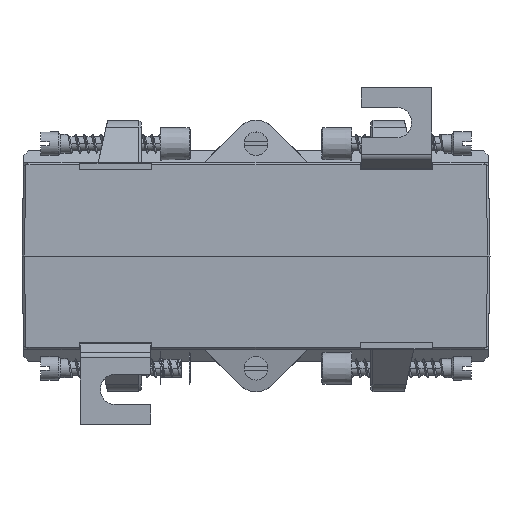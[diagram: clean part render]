
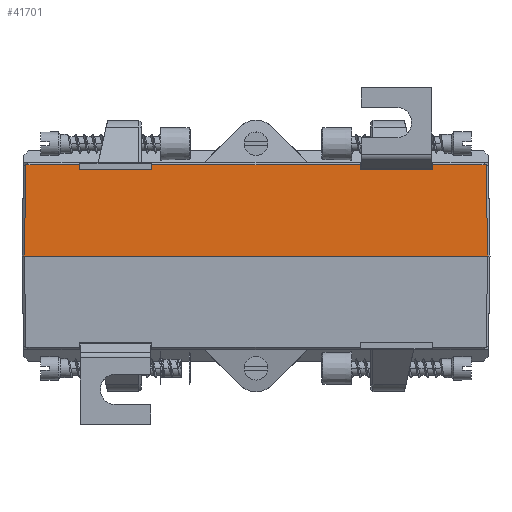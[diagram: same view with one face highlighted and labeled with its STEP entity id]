
A CAD part, front view. The second image highlights one B-rep face of the part: STEP entity #41701.
In plain terms, the highlighted planar face has unit normal (0, -1, 0.018).
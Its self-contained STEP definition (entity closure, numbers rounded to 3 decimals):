
#799=PLANE('',#44269);
#3035=FACE_OUTER_BOUND('',#5278,.T.);
#5278=EDGE_LOOP('',(#30812,#30813,#30814,#30815,#30816,#30817,#30818,#30819,
#30820,#30821,#30822,#30823,#30824,#30825));
#9859=LINE('',#88859,#13892);
#9861=LINE('',#88864,#13894);
#9862=LINE('',#88866,#13895);
#9863=LINE('',#88868,#13896);
#9864=LINE('',#88869,#13897);
#9865=LINE('',#88871,#13898);
#9866=LINE('',#88873,#13899);
#9867=LINE('',#88875,#13900);
#9868=LINE('',#88877,#13901);
#9869=LINE('',#88879,#13902);
#9870=LINE('',#88881,#13903);
#9871=LINE('',#88883,#13904);
#9872=LINE('',#88885,#13905);
#9873=LINE('',#88886,#13906);
#13892=VECTOR('',#49468,1000.);
#13894=VECTOR('',#49472,1000.);
#13895=VECTOR('',#49473,1000.);
#13896=VECTOR('',#49474,1000.);
#13897=VECTOR('',#49475,1000.);
#13898=VECTOR('',#49476,1000.);
#13899=VECTOR('',#49477,1000.);
#13900=VECTOR('',#49478,1000.);
#13901=VECTOR('',#49479,1000.);
#13902=VECTOR('',#49480,1000.);
#13903=VECTOR('',#49481,1000.);
#13904=VECTOR('',#49482,1000.);
#13905=VECTOR('',#49483,1000.);
#13906=VECTOR('',#49484,1000.);
#18457=VERTEX_POINT('',#88856);
#18458=VERTEX_POINT('',#88858);
#18459=VERTEX_POINT('',#88862);
#18460=VERTEX_POINT('',#88863);
#18461=VERTEX_POINT('',#88865);
#18462=VERTEX_POINT('',#88867);
#18463=VERTEX_POINT('',#88870);
#18464=VERTEX_POINT('',#88872);
#18465=VERTEX_POINT('',#88874);
#18466=VERTEX_POINT('',#88876);
#18467=VERTEX_POINT('',#88878);
#18468=VERTEX_POINT('',#88880);
#18469=VERTEX_POINT('',#88882);
#18470=VERTEX_POINT('',#88884);
#23111=EDGE_CURVE('',#18458,#18457,#9859,.T.);
#23113=EDGE_CURVE('',#18459,#18460,#9861,.T.);
#23114=EDGE_CURVE('',#18460,#18461,#9862,.T.);
#23115=EDGE_CURVE('',#18461,#18462,#9863,.T.);
#23116=EDGE_CURVE('',#18458,#18462,#9864,.T.);
#23117=EDGE_CURVE('',#18463,#18457,#9865,.T.);
#23118=EDGE_CURVE('',#18463,#18464,#9866,.T.);
#23119=EDGE_CURVE('',#18464,#18465,#9867,.T.);
#23120=EDGE_CURVE('',#18465,#18466,#9868,.T.);
#23121=EDGE_CURVE('',#18466,#18467,#9869,.T.);
#23122=EDGE_CURVE('',#18467,#18468,#9870,.T.);
#23123=EDGE_CURVE('',#18468,#18469,#9871,.T.);
#23124=EDGE_CURVE('',#18469,#18470,#9872,.T.);
#23125=EDGE_CURVE('',#18459,#18470,#9873,.T.);
#30812=ORIENTED_EDGE('',*,*,#23113,.T.);
#30813=ORIENTED_EDGE('',*,*,#23114,.T.);
#30814=ORIENTED_EDGE('',*,*,#23115,.T.);
#30815=ORIENTED_EDGE('',*,*,#23116,.F.);
#30816=ORIENTED_EDGE('',*,*,#23111,.T.);
#30817=ORIENTED_EDGE('',*,*,#23117,.F.);
#30818=ORIENTED_EDGE('',*,*,#23118,.T.);
#30819=ORIENTED_EDGE('',*,*,#23119,.T.);
#30820=ORIENTED_EDGE('',*,*,#23120,.T.);
#30821=ORIENTED_EDGE('',*,*,#23121,.T.);
#30822=ORIENTED_EDGE('',*,*,#23122,.T.);
#30823=ORIENTED_EDGE('',*,*,#23123,.T.);
#30824=ORIENTED_EDGE('',*,*,#23124,.T.);
#30825=ORIENTED_EDGE('',*,*,#23125,.F.);
#41701=ADVANCED_FACE('',(#3035),#799,.T.);
#44269=AXIS2_PLACEMENT_3D('',#88861,#49470,#49471);
#49468=DIRECTION('',(-1.,0.,0.));
#49470=DIRECTION('center_axis',(0.,-1.,0.017));
#49471=DIRECTION('ref_axis',(0.,-0.017,-1.));
#49472=DIRECTION('',(-0.017,0.017,1.));
#49473=DIRECTION('',(-0.719,0.012,0.695));
#49474=DIRECTION('',(-1.,0.,0.));
#49475=DIRECTION('',(0.,0.017,1.));
#49476=DIRECTION('',(0.,-0.017,-1.));
#49477=DIRECTION('',(-1.,0.,0.));
#49478=DIRECTION('',(0.,-0.017,-1.));
#49479=DIRECTION('',(-1.,0.,0.));
#49480=DIRECTION('',(0.,0.017,1.));
#49481=DIRECTION('',(-1.,0.,0.));
#49482=DIRECTION('',(-0.719,-0.012,-0.695));
#49483=DIRECTION('',(-0.017,-0.017,-1.));
#49484=DIRECTION('',(-1.,0.,0.));
#88856=CARTESIAN_POINT('',(22.25,-87.179,18.4));
#88858=CARTESIAN_POINT('',(37.75,-87.179,18.4));
#88859=CARTESIAN_POINT('',(-50.,-87.179,18.4));
#88861=CARTESIAN_POINT('Origin',(-50.,-87.5,0.));
#88862=CARTESIAN_POINT('',(49.5,-87.5,0.));
#88863=CARTESIAN_POINT('',(49.16,-87.16,19.491));
#88864=CARTESIAN_POINT('',(49.47,-87.47,1.736));
#88865=CARTESIAN_POINT('',(49.151,-87.16,19.5));
#88866=CARTESIAN_POINT('',(48.636,-87.151,19.997));
#88867=CARTESIAN_POINT('',(37.75,-87.16,19.5));
#88868=CARTESIAN_POINT('',(-48.633,-87.16,19.5));
#88869=CARTESIAN_POINT('',(37.75,-87.5,0.));
#88870=CARTESIAN_POINT('',(22.25,-87.16,19.5));
#88871=CARTESIAN_POINT('',(22.25,-87.5,0.));
#88872=CARTESIAN_POINT('',(-22.25,-87.16,19.5));
#88873=CARTESIAN_POINT('',(-48.633,-87.16,19.5));
#88874=CARTESIAN_POINT('',(-22.25,-87.179,18.4));
#88875=CARTESIAN_POINT('',(-22.25,-87.5,0.));
#88876=CARTESIAN_POINT('',(-37.75,-87.179,18.4));
#88877=CARTESIAN_POINT('',(-50.,-87.179,18.4));
#88878=CARTESIAN_POINT('',(-37.75,-87.16,19.5));
#88879=CARTESIAN_POINT('',(-37.75,-87.5,0.));
#88880=CARTESIAN_POINT('',(-49.151,-87.16,19.5));
#88881=CARTESIAN_POINT('',(-48.633,-87.16,19.5));
#88882=CARTESIAN_POINT('',(-49.16,-87.16,19.491));
#88883=CARTESIAN_POINT('',(-48.636,-87.151,19.997));
#88884=CARTESIAN_POINT('',(-49.5,-87.5,0.));
#88885=CARTESIAN_POINT('',(-49.5,-87.5,-0.009));
#88886=CARTESIAN_POINT('',(50.,-87.5,0.));
